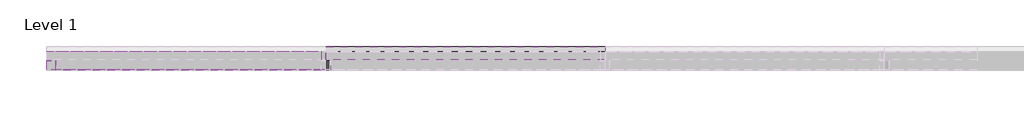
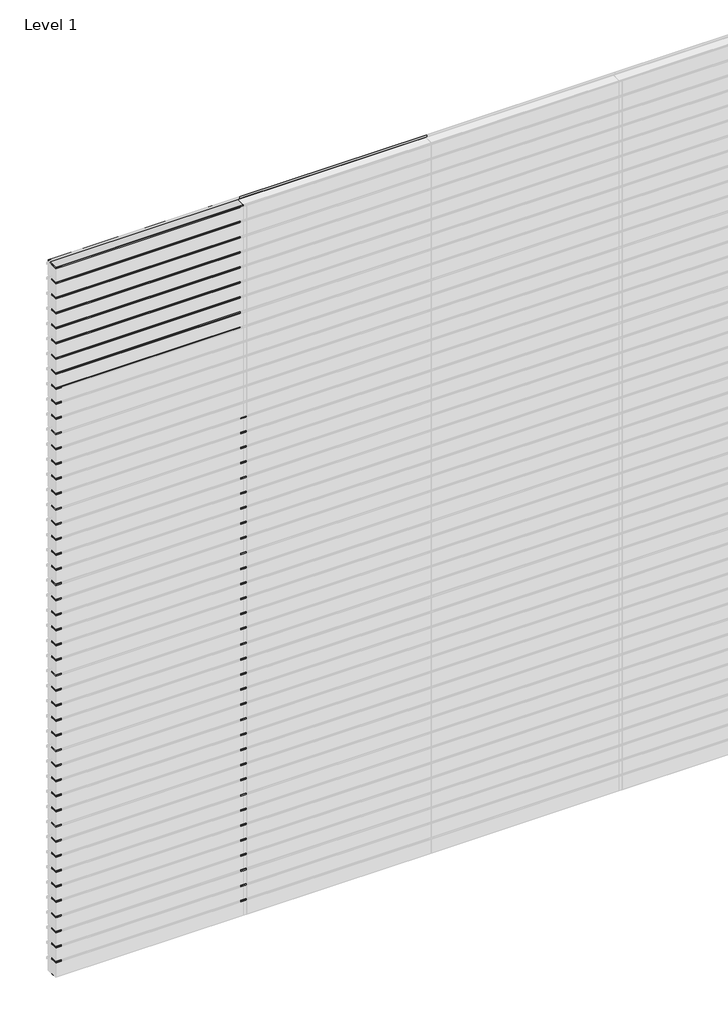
# One storey, part 2 of 6: 127 members, 9 plates.
"""IFC4 building model written with IfcOpenShell, lengths in millimetres."""

from ifc_helpers import new_model, si_unit, origin, place, context, project, spatial, transform, mapped, element, save
from components import rectangular_mullion_0894c78b, rectangular_mullion_172e3795, rectangular_mullion_b3c6ef04, empty_system_panel_empty_cd94e0d4, empty_system_panel_empty_03f415d5

model = new_model("IFC4")

# Units and contexts
model_context = context("Model", 3, world=origin())
ifc_project = project(units=[si_unit("LENGTHUNIT", "METRE", prefix="MILLI")], contexts=[model_context])

# Site, building, storey
site = spatial("IfcSite", under=ifc_project)
building = spatial("IfcBuilding", under=site)
storey = spatial("IfcBuildingStorey", under=building, Name="Level 1", Elevation=0.0)

# Members
placement = place(None, origin())
rectangular_mullion_shape = rectangular_mullion_0894c78b(model_context)
element("IfcMember", 1, ObjectType="Rectangular Mullion : RSen_21_CWM_blade - 100 C_gen_duco projects", at=placement, inside=storey, context=model_context, shape_type="MappedRepresentation", body=[
    mapped(rectangular_mullion_shape, transform((1500.0, 3000.0, 127.5), x_axis=(0.0, 0.0, 1.0), y_axis=(0.0, 1.0, 0.0), z_axis=(-1.0, 0.0, 0.0))),
])
element("IfcMember", 2, ObjectType="Rectangular Mullion : RSen_21_CWM_blade - 100 C_gen_duco projects", at=placement, inside=storey, context=model_context, shape_type="MappedRepresentation", body=[
    mapped(rectangular_mullion_shape, transform((1500.0, 3000.0, 255.0), x_axis=(0.0, 0.0, 1.0), y_axis=(0.0, 1.0, 0.0), z_axis=(-1.0, 0.0, 0.0))),
])
element("IfcMember", 3, ObjectType="Rectangular Mullion : RSen_21_CWM_blade - 100 C_gen_duco projects", at=placement, inside=storey, context=model_context, shape_type="MappedRepresentation", body=[
    mapped(rectangular_mullion_shape, transform((1500.0, 3000.0, 382.5), x_axis=(0.0, 0.0, 1.0), y_axis=(0.0, 1.0, 0.0), z_axis=(-1.0, 0.0, 0.0))),
])
element("IfcMember", 4, ObjectType="Rectangular Mullion : RSen_21_CWM_blade - 100 C_gen_duco projects", at=placement, inside=storey, context=model_context, shape_type="MappedRepresentation", body=[
    mapped(rectangular_mullion_shape, transform((1500.0, 3000.0, 510.0), x_axis=(0.0, 0.0, 1.0), y_axis=(0.0, 1.0, 0.0), z_axis=(-1.0, 0.0, 0.0))),
])
element("IfcMember", 5, ObjectType="Rectangular Mullion : RSen_21_CWM_blade - 100 C_gen_duco projects", at=placement, inside=storey, context=model_context, shape_type="MappedRepresentation", body=[
    mapped(rectangular_mullion_shape, transform((1500.0, 3000.0, 637.5), x_axis=(0.0, 0.0, 1.0), y_axis=(0.0, 1.0, 0.0), z_axis=(-1.0, 0.0, 0.0))),
])
element("IfcMember", 6, ObjectType="Rectangular Mullion : RSen_21_CWM_blade - 100 C_gen_duco projects", at=placement, inside=storey, context=model_context, shape_type="MappedRepresentation", body=[
    mapped(rectangular_mullion_shape, transform((1500.0, 3000.0, 765.0), x_axis=(0.0, 0.0, 1.0), y_axis=(0.0, 1.0, 0.0), z_axis=(-1.0, 0.0, 0.0))),
])
element("IfcMember", 7, ObjectType="Rectangular Mullion : RSen_21_CWM_blade - 100 C_gen_duco projects", at=placement, inside=storey, context=model_context, shape_type="MappedRepresentation", body=[
    mapped(rectangular_mullion_shape, transform((1500.0, 3000.0, 892.5), x_axis=(0.0, 0.0, 1.0), y_axis=(0.0, 1.0, 0.0), z_axis=(-1.0, 0.0, 0.0))),
])
element("IfcMember", 8, ObjectType="Rectangular Mullion : RSen_21_CWM_blade - 100 C_gen_duco projects", at=placement, inside=storey, context=model_context, shape_type="MappedRepresentation", body=[
    mapped(rectangular_mullion_shape, transform((1500.0, 3000.0, 1020.0), x_axis=(0.0, 0.0, 1.0), y_axis=(0.0, 1.0, 0.0), z_axis=(-1.0, 0.0, 0.0))),
])
element("IfcMember", 9, ObjectType="Rectangular Mullion : RSen_21_CWM_blade - 100 C_gen_duco projects", at=placement, inside=storey, context=model_context, shape_type="MappedRepresentation", body=[
    mapped(rectangular_mullion_shape, transform((1500.0, 3000.0, 1147.5), x_axis=(0.0, 0.0, 1.0), y_axis=(0.0, 1.0, 0.0), z_axis=(-1.0, 0.0, 0.0))),
])
element("IfcMember", 10, ObjectType="Rectangular Mullion : RSen_21_CWM_blade - 100 C_gen_duco projects", at=placement, inside=storey, context=model_context, shape_type="MappedRepresentation", body=[
    mapped(rectangular_mullion_shape, transform((1500.0, 3000.0, 1275.0), x_axis=(0.0, 0.0, 1.0), y_axis=(0.0, 1.0, 0.0), z_axis=(-1.0, 0.0, 0.0))),
])
element("IfcMember", 11, ObjectType="Rectangular Mullion : RSen_21_CWM_blade - 100 C_gen_duco projects", at=placement, inside=storey, context=model_context, shape_type="MappedRepresentation", body=[
    mapped(rectangular_mullion_shape, transform((1500.0, 3000.0, 1402.5), x_axis=(0.0, 0.0, 1.0), y_axis=(0.0, 1.0, 0.0), z_axis=(-1.0, 0.0, 0.0))),
])
element("IfcMember", 12, ObjectType="Rectangular Mullion : RSen_21_CWM_blade - 100 C_gen_duco projects", at=placement, inside=storey, context=model_context, shape_type="MappedRepresentation", body=[
    mapped(rectangular_mullion_shape, transform((1500.0, 3000.0, 1530.0), x_axis=(0.0, 0.0, 1.0), y_axis=(0.0, 1.0, 0.0), z_axis=(-1.0, 0.0, 0.0))),
])
element("IfcMember", 13, ObjectType="Rectangular Mullion : RSen_21_CWM_blade - 100 C_gen_duco projects", at=placement, inside=storey, context=model_context, shape_type="MappedRepresentation", body=[
    mapped(rectangular_mullion_shape, transform((1500.0, 3000.0, 1657.5), x_axis=(0.0, 0.0, 1.0), y_axis=(0.0, 1.0, 0.0), z_axis=(-1.0, 0.0, 0.0))),
])
element("IfcMember", 14, ObjectType="Rectangular Mullion : RSen_21_CWM_blade - 100 C_gen_duco projects", at=placement, inside=storey, context=model_context, shape_type="MappedRepresentation", body=[
    mapped(rectangular_mullion_shape, transform((1500.0, 3000.0, 1785.0), x_axis=(0.0, 0.0, 1.0), y_axis=(0.0, 1.0, 0.0), z_axis=(-1.0, 0.0, 0.0))),
])
element("IfcMember", 15, ObjectType="Rectangular Mullion : RSen_21_CWM_blade - 100 C_gen_duco projects", at=placement, inside=storey, context=model_context, shape_type="MappedRepresentation", body=[
    mapped(rectangular_mullion_shape, transform((1500.0, 3000.0, 1912.5), x_axis=(0.0, 0.0, 1.0), y_axis=(0.0, 1.0, 0.0), z_axis=(-1.0, 0.0, 0.0))),
])
element("IfcMember", 16, ObjectType="Rectangular Mullion : RSen_21_CWM_blade - 100 C_gen_duco projects", at=placement, inside=storey, context=model_context, shape_type="MappedRepresentation", body=[
    mapped(rectangular_mullion_shape, transform((1500.0, 3000.0, 2040.0), x_axis=(0.0, 0.0, 1.0), y_axis=(0.0, 1.0, 0.0), z_axis=(-1.0, 0.0, 0.0))),
])
element("IfcMember", 17, ObjectType="Rectangular Mullion : RSen_21_CWM_blade - 100 C_gen_duco projects", at=placement, inside=storey, context=model_context, shape_type="MappedRepresentation", body=[
    mapped(rectangular_mullion_shape, transform((1500.0, 3000.0, 2167.5), x_axis=(0.0, 0.0, 1.0), y_axis=(0.0, 1.0, 0.0), z_axis=(-1.0, 0.0, 0.0))),
])
element("IfcMember", 18, ObjectType="Rectangular Mullion : RSen_21_CWM_blade - 100 C_gen_duco projects", at=placement, inside=storey, context=model_context, shape_type="MappedRepresentation", body=[
    mapped(rectangular_mullion_shape, transform((1500.0, 3000.0, 2295.0), x_axis=(0.0, 0.0, 1.0), y_axis=(0.0, 1.0, 0.0), z_axis=(-1.0, 0.0, 0.0))),
])
element("IfcMember", 19, ObjectType="Rectangular Mullion : RSen_21_CWM_blade - 100 C_gen_duco projects", at=placement, inside=storey, context=model_context, shape_type="MappedRepresentation", body=[
    mapped(rectangular_mullion_shape, transform((1500.0, 3000.0, 2422.5), x_axis=(0.0, 0.0, 1.0), y_axis=(0.0, 1.0, 0.0), z_axis=(-1.0, 0.0, 0.0))),
])
element("IfcMember", 20, ObjectType="Rectangular Mullion : RSen_21_CWM_blade - 100 C_gen_duco projects", at=placement, inside=storey, context=model_context, shape_type="MappedRepresentation", body=[
    mapped(rectangular_mullion_shape, transform((1500.0, 3000.0, 2550.0), x_axis=(0.0, 0.0, 1.0), y_axis=(0.0, 1.0, 0.0), z_axis=(-1.0, 0.0, 0.0))),
])
element("IfcMember", 21, ObjectType="Rectangular Mullion : RSen_21_CWM_blade - 100 C_gen_duco projects", at=placement, inside=storey, context=model_context, shape_type="MappedRepresentation", body=[
    mapped(rectangular_mullion_shape, transform((1500.0, 3000.0, 2677.5), x_axis=(0.0, 0.0, 1.0), y_axis=(0.0, 1.0, 0.0), z_axis=(-1.0, 0.0, 0.0))),
])
element("IfcMember", 22, ObjectType="Rectangular Mullion : RSen_21_CWM_blade - 100 C_gen_duco projects", at=placement, inside=storey, context=model_context, shape_type="MappedRepresentation", body=[
    mapped(rectangular_mullion_shape, transform((1500.0, 3000.0, 2805.0), x_axis=(0.0, 0.0, 1.0), y_axis=(0.0, 1.0, 0.0), z_axis=(-1.0, 0.0, 0.0))),
])
element("IfcMember", 23, ObjectType="Rectangular Mullion : RSen_21_CWM_blade - 100 C_gen_duco projects", at=placement, inside=storey, context=model_context, shape_type="MappedRepresentation", body=[
    mapped(rectangular_mullion_shape, transform((1500.0, 3000.0, 2932.5), x_axis=(0.0, 0.0, 1.0), y_axis=(0.0, 1.0, 0.0), z_axis=(-1.0, 0.0, 0.0))),
])
element("IfcMember", 24, ObjectType="Rectangular Mullion : RSen_21_CWM_blade - 100 C_gen_duco projects", at=placement, inside=storey, context=model_context, shape_type="MappedRepresentation", body=[
    mapped(rectangular_mullion_shape, transform((1500.0, 3000.0, 3060.0), x_axis=(0.0, 0.0, 1.0), y_axis=(0.0, 1.0, 0.0), z_axis=(-1.0, 0.0, 0.0))),
])
element("IfcMember", 25, ObjectType="Rectangular Mullion : RSen_21_CWM_blade - 100 C_gen_duco projects", at=placement, inside=storey, context=model_context, shape_type="MappedRepresentation", body=[
    mapped(rectangular_mullion_shape, transform((1500.0, 3000.0, 3187.5), x_axis=(0.0, 0.0, 1.0), y_axis=(0.0, 1.0, 0.0), z_axis=(-1.0, 0.0, 0.0))),
])
element("IfcMember", 26, ObjectType="Rectangular Mullion : RSen_21_CWM_blade - 100 C_gen_duco projects", at=placement, inside=storey, context=model_context, shape_type="MappedRepresentation", body=[
    mapped(rectangular_mullion_shape, transform((1500.0, 3000.0, 3315.0), x_axis=(0.0, 0.0, 1.0), y_axis=(0.0, 1.0, 0.0), z_axis=(-1.0, 0.0, 0.0))),
])
element("IfcMember", 27, ObjectType="Rectangular Mullion : RSen_21_CWM_blade - 100 C_gen_duco projects", at=placement, inside=storey, context=model_context, shape_type="MappedRepresentation", body=[
    mapped(rectangular_mullion_shape, transform((1500.0, 3000.0, 3442.5), x_axis=(0.0, 0.0, 1.0), y_axis=(0.0, 1.0, 0.0), z_axis=(-1.0, 0.0, 0.0))),
])
element("IfcMember", 28, ObjectType="Rectangular Mullion : RSen_21_CWM_blade - 100 C_gen_duco projects", at=placement, inside=storey, context=model_context, shape_type="MappedRepresentation", body=[
    mapped(rectangular_mullion_shape, transform((1500.0, 3000.0, 3570.0), x_axis=(0.0, 0.0, 1.0), y_axis=(0.0, 1.0, 0.0), z_axis=(-1.0, 0.0, 0.0))),
])
element("IfcMember", 29, ObjectType="Rectangular Mullion : RSen_21_CWM_blade - 100 C_gen_duco projects", at=placement, inside=storey, context=model_context, shape_type="MappedRepresentation", body=[
    mapped(rectangular_mullion_shape, transform((1500.0, 3000.0, 3697.5), x_axis=(0.0, 0.0, 1.0), y_axis=(0.0, 1.0, 0.0), z_axis=(-1.0, 0.0, 0.0))),
])
element("IfcMember", 30, ObjectType="Rectangular Mullion : RSen_21_CWM_blade - 100 C_gen_duco projects", at=placement, inside=storey, context=model_context, shape_type="MappedRepresentation", body=[
    mapped(rectangular_mullion_shape, transform((1500.0, 3000.0, 3825.0), x_axis=(0.0, 0.0, 1.0), y_axis=(0.0, 1.0, 0.0), z_axis=(-1.0, 0.0, 0.0))),
])
element("IfcMember", 31, ObjectType="Rectangular Mullion : RSen_21_CWM_blade - 100 C_gen_duco projects", at=placement, inside=storey, context=model_context, shape_type="MappedRepresentation", body=[
    mapped(rectangular_mullion_shape, transform((1500.0, 3000.0, 3952.5), x_axis=(0.0, 0.0, 1.0), y_axis=(0.0, 1.0, 0.0), z_axis=(-1.0, 0.0, 0.0))),
])
element("IfcMember", 32, ObjectType="Rectangular Mullion : RSen_21_CWM_blade - 100 C_gen_duco projects", at=placement, inside=storey, context=model_context, shape_type="MappedRepresentation", body=[
    mapped(rectangular_mullion_shape, transform((1500.0, 3000.0, 4080.0), x_axis=(0.0, 0.0, 1.0), y_axis=(0.0, 1.0, 0.0), z_axis=(-1.0, 0.0, 0.0))),
])
element("IfcMember", 33, ObjectType="Rectangular Mullion : RSen_21_CWM_blade - 100 C_gen_duco projects", at=placement, inside=storey, context=model_context, shape_type="MappedRepresentation", body=[
    mapped(rectangular_mullion_shape, transform((1500.0, 3000.0, 4207.5), x_axis=(0.0, 0.0, 1.0), y_axis=(0.0, 1.0, 0.0), z_axis=(-1.0, 0.0, 0.0))),
])
element("IfcMember", 34, ObjectType="Rectangular Mullion : RSen_21_CWM_blade - 100 C_gen_duco projects", at=placement, inside=storey, context=model_context, shape_type="MappedRepresentation", body=[
    mapped(rectangular_mullion_shape, transform((1500.0, 3000.0, 4335.0), x_axis=(0.0, 0.0, 1.0), y_axis=(0.0, 1.0, 0.0), z_axis=(-1.0, 0.0, 0.0))),
])
element("IfcMember", 35, ObjectType="Rectangular Mullion : RSen_21_CWM_blade - 100 C_gen_duco projects", at=placement, inside=storey, context=model_context, shape_type="MappedRepresentation", body=[
    mapped(rectangular_mullion_shape, transform((1500.0, 3000.0, 4462.5), x_axis=(0.0, 0.0, 1.0), y_axis=(0.0, 1.0, 0.0), z_axis=(-1.0, 0.0, 0.0))),
])
element("IfcMember", 36, ObjectType="Rectangular Mullion : RSen_21_CWM_blade - 100 C_gen_duco projects", at=placement, inside=storey, context=model_context, shape_type="MappedRepresentation", body=[
    mapped(rectangular_mullion_shape, transform((1500.0, 3000.0, 4590.0), x_axis=(0.0, 0.0, 1.0), y_axis=(0.0, 1.0, 0.0), z_axis=(-1.0, 0.0, 0.0))),
])
element("IfcMember", 37, ObjectType="Rectangular Mullion : RSen_21_CWM_blade - 100 C_gen_duco projects", at=placement, inside=storey, context=model_context, shape_type="MappedRepresentation", body=[
    mapped(rectangular_mullion_shape, transform((1500.0, 3000.0, 4717.5), x_axis=(0.0, 0.0, 1.0), y_axis=(0.0, 1.0, 0.0), z_axis=(-1.0, 0.0, 0.0))),
])
element("IfcMember", 38, ObjectType="Rectangular Mullion : RSen_21_CWM_blade - 100 C_gen_duco projects", at=placement, inside=storey, context=model_context, shape_type="MappedRepresentation", body=[
    mapped(rectangular_mullion_shape, transform((1500.0, 3000.0, 4845.0), x_axis=(0.0, 0.0, 1.0), y_axis=(0.0, 1.0, 0.0), z_axis=(-1.0, 0.0, 0.0))),
])
element("IfcMember", 39, ObjectType="Rectangular Mullion : RSen_21_CWM_blade - 100 C_gen_duco projects", at=placement, inside=storey, context=model_context, shape_type="MappedRepresentation", body=[
    mapped(rectangular_mullion_shape, transform((1500.0, 3000.0, 4972.5), x_axis=(0.0, 0.0, 1.0), y_axis=(0.0, 1.0, 0.0), z_axis=(-1.0, 0.0, 0.0))),
])
element("IfcMember", 40, ObjectType="Rectangular Mullion : RSen_21_CWM_blade - 100 C_gen_duco projects", at=placement, inside=storey, context=model_context, shape_type="MappedRepresentation", body=[
    mapped(rectangular_mullion_shape, transform((1500.0, 3000.0, 5100.0), x_axis=(0.0, 0.0, 1.0), y_axis=(0.0, 1.0, 0.0), z_axis=(-1.0, 0.0, 0.0))),
])
element("IfcMember", 41, ObjectType="Rectangular Mullion : RSen_21_CWM_blade - 100 C_gen_duco projects", at=placement, inside=storey, context=model_context, shape_type="MappedRepresentation", body=[
    mapped(rectangular_mullion_shape, transform((1500.0, 3000.0, 5227.5), x_axis=(0.0, 0.0, 1.0), y_axis=(0.0, 1.0, 0.0), z_axis=(-1.0, 0.0, 0.0))),
])
element("IfcMember", 42, ObjectType="Rectangular Mullion : RSen_21_CWM_blade - 100 C_gen_duco projects", at=placement, inside=storey, context=model_context, shape_type="MappedRepresentation", body=[
    mapped(rectangular_mullion_shape, transform((1500.0, 3000.0, 5355.0), x_axis=(0.0, 0.0, 1.0), y_axis=(0.0, 1.0, 0.0), z_axis=(-1.0, 0.0, 0.0))),
])
element("IfcMember", 43, ObjectType="Rectangular Mullion : RSen_21_CWM_blade - 100 C_gen_duco projects", at=placement, inside=storey, context=model_context, shape_type="MappedRepresentation", body=[
    mapped(rectangular_mullion_shape, transform((1500.0, 3000.0, 5482.5), x_axis=(0.0, 0.0, 1.0), y_axis=(0.0, 1.0, 0.0), z_axis=(-1.0, 0.0, 0.0))),
])
element("IfcMember", 44, ObjectType="Rectangular Mullion : RSen_21_CWM_blade - 100 C_gen_duco projects", at=placement, inside=storey, context=model_context, shape_type="MappedRepresentation", body=[
    mapped(rectangular_mullion_shape, transform((1500.0, 3000.0, 5610.0), x_axis=(0.0, 0.0, 1.0), y_axis=(0.0, 1.0, 0.0), z_axis=(-1.0, 0.0, 0.0))),
])
element("IfcMember", 45, ObjectType="Rectangular Mullion : RSen_21_CWM_blade - 100 C_gen_duco projects", at=placement, inside=storey, context=model_context, shape_type="MappedRepresentation", body=[
    mapped(rectangular_mullion_shape, transform((1500.0, 3000.0, 5737.5), x_axis=(0.0, 0.0, 1.0), y_axis=(0.0, 1.0, 0.0), z_axis=(-1.0, 0.0, 0.0))),
])
element("IfcMember", 46, ObjectType="Rectangular Mullion : RSen_21_CWM_blade - 100 C_gen_duco projects", at=placement, inside=storey, context=model_context, shape_type="MappedRepresentation", body=[
    mapped(rectangular_mullion_shape, transform((1500.0, 3000.0, 5865.0), x_axis=(0.0, 0.0, 1.0), y_axis=(0.0, 1.0, 0.0), z_axis=(-1.0, 0.0, 0.0))),
])
element("IfcMember", 47, ObjectType="Rectangular Mullion : RSen_21_CWM_blade - 100 C_gen_duco projects", at=placement, inside=storey, context=model_context, shape_type="MappedRepresentation", body=[
    mapped(rectangular_mullion_shape, transform((1500.0, 3000.0, 5992.5), x_axis=(0.0, 0.0, 1.0), y_axis=(0.0, 1.0, 0.0), z_axis=(-1.0, 0.0, 0.0))),
])
rectangular_mullion_2_shape = rectangular_mullion_172e3795(model_context)
element("IfcMember", 48, ObjectType="Rectangular Mullion : RSen_21_CWM_support profile 50x50_gen_duco projects", at=placement, inside=storey, context=model_context, shape_type="MappedRepresentation", body=[
    mapped(rectangular_mullion_2_shape, transform((1500.0, 3000.0, 0.0), x_axis=(-1.0, 0.0, 0.0), y_axis=(0.0, 1.0, 0.0), z_axis=(0.0, 0.0, -1.0))),
])
element("IfcMember", 49, ObjectType="Rectangular Mullion : RSen_21_CWM_support profile 50x50_gen_duco projects", at=placement, inside=storey, context=model_context, shape_type="MappedRepresentation", body=[
    mapped(rectangular_mullion_2_shape, transform((1500.0, 3000.0, 127.5), x_axis=(-1.0, 0.0, 0.0), y_axis=(0.0, 1.0, 0.0), z_axis=(0.0, 0.0, -1.0))),
])
element("IfcMember", 50, ObjectType="Rectangular Mullion : RSen_21_CWM_support profile 50x50_gen_duco projects", at=placement, inside=storey, context=model_context, shape_type="MappedRepresentation", body=[
    mapped(rectangular_mullion_2_shape, transform((1500.0, 3000.0, 255.0), x_axis=(-1.0, 0.0, 0.0), y_axis=(0.0, 1.0, 0.0), z_axis=(0.0, 0.0, -1.0))),
])
element("IfcMember", 51, ObjectType="Rectangular Mullion : RSen_21_CWM_support profile 50x50_gen_duco projects", at=placement, inside=storey, context=model_context, shape_type="MappedRepresentation", body=[
    mapped(rectangular_mullion_2_shape, transform((1500.0, 3000.0, 382.5), x_axis=(-1.0, 0.0, 0.0), y_axis=(0.0, 1.0, 0.0), z_axis=(0.0, 0.0, -1.0))),
])
element("IfcMember", 52, ObjectType="Rectangular Mullion : RSen_21_CWM_support profile 50x50_gen_duco projects", at=placement, inside=storey, context=model_context, shape_type="MappedRepresentation", body=[
    mapped(rectangular_mullion_2_shape, transform((1500.0, 3000.0, 510.0), x_axis=(-1.0, 0.0, 0.0), y_axis=(0.0, 1.0, 0.0), z_axis=(0.0, 0.0, -1.0))),
])
element("IfcMember", 53, ObjectType="Rectangular Mullion : RSen_21_CWM_support profile 50x50_gen_duco projects", at=placement, inside=storey, context=model_context, shape_type="MappedRepresentation", body=[
    mapped(rectangular_mullion_2_shape, transform((1500.0, 3000.0, 637.5), x_axis=(-1.0, 0.0, 0.0), y_axis=(0.0, 1.0, 0.0), z_axis=(0.0, 0.0, -1.0))),
])
element("IfcMember", 54, ObjectType="Rectangular Mullion : RSen_21_CWM_support profile 50x50_gen_duco projects", at=placement, inside=storey, context=model_context, shape_type="MappedRepresentation", body=[
    mapped(rectangular_mullion_2_shape, transform((1500.0, 3000.0, 765.0), x_axis=(-1.0, 0.0, 0.0), y_axis=(0.0, 1.0, 0.0), z_axis=(0.0, 0.0, -1.0))),
])
element("IfcMember", 55, ObjectType="Rectangular Mullion : RSen_21_CWM_support profile 50x50_gen_duco projects", at=placement, inside=storey, context=model_context, shape_type="MappedRepresentation", body=[
    mapped(rectangular_mullion_2_shape, transform((1500.0, 3000.0, 892.5), x_axis=(-1.0, 0.0, 0.0), y_axis=(0.0, 1.0, 0.0), z_axis=(0.0, 0.0, -1.0))),
])
element("IfcMember", 56, ObjectType="Rectangular Mullion : RSen_21_CWM_support profile 50x50_gen_duco projects", at=placement, inside=storey, context=model_context, shape_type="MappedRepresentation", body=[
    mapped(rectangular_mullion_2_shape, transform((1500.0, 3000.0, 1020.0), x_axis=(-1.0, 0.0, 0.0), y_axis=(0.0, 1.0, 0.0), z_axis=(0.0, 0.0, -1.0))),
])
element("IfcMember", 57, ObjectType="Rectangular Mullion : RSen_21_CWM_support profile 50x50_gen_duco projects", at=placement, inside=storey, context=model_context, shape_type="MappedRepresentation", body=[
    mapped(rectangular_mullion_2_shape, transform((1500.0, 3000.0, 1147.5), x_axis=(-1.0, 0.0, 0.0), y_axis=(0.0, 1.0, 0.0), z_axis=(0.0, 0.0, -1.0))),
])
element("IfcMember", 58, ObjectType="Rectangular Mullion : RSen_21_CWM_support profile 50x50_gen_duco projects", at=placement, inside=storey, context=model_context, shape_type="MappedRepresentation", body=[
    mapped(rectangular_mullion_2_shape, transform((1500.0, 3000.0, 1275.0), x_axis=(-1.0, 0.0, 0.0), y_axis=(0.0, 1.0, 0.0), z_axis=(0.0, 0.0, -1.0))),
])
element("IfcMember", 59, ObjectType="Rectangular Mullion : RSen_21_CWM_support profile 50x50_gen_duco projects", at=placement, inside=storey, context=model_context, shape_type="MappedRepresentation", body=[
    mapped(rectangular_mullion_2_shape, transform((1500.0, 3000.0, 1402.5), x_axis=(-1.0, 0.0, 0.0), y_axis=(0.0, 1.0, 0.0), z_axis=(0.0, 0.0, -1.0))),
])
element("IfcMember", 60, ObjectType="Rectangular Mullion : RSen_21_CWM_support profile 50x50_gen_duco projects", at=placement, inside=storey, context=model_context, shape_type="MappedRepresentation", body=[
    mapped(rectangular_mullion_2_shape, transform((1500.0, 3000.0, 1530.0), x_axis=(-1.0, 0.0, 0.0), y_axis=(0.0, 1.0, 0.0), z_axis=(0.0, 0.0, -1.0))),
])
element("IfcMember", 61, ObjectType="Rectangular Mullion : RSen_21_CWM_support profile 50x50_gen_duco projects", at=placement, inside=storey, context=model_context, shape_type="MappedRepresentation", body=[
    mapped(rectangular_mullion_2_shape, transform((1500.0, 3000.0, 1657.5), x_axis=(-1.0, 0.0, 0.0), y_axis=(0.0, 1.0, 0.0), z_axis=(0.0, 0.0, -1.0))),
])
element("IfcMember", 62, ObjectType="Rectangular Mullion : RSen_21_CWM_support profile 50x50_gen_duco projects", at=placement, inside=storey, context=model_context, shape_type="MappedRepresentation", body=[
    mapped(rectangular_mullion_2_shape, transform((1500.0, 3000.0, 1785.0), x_axis=(-1.0, 0.0, 0.0), y_axis=(0.0, 1.0, 0.0), z_axis=(0.0, 0.0, -1.0))),
])
element("IfcMember", 63, ObjectType="Rectangular Mullion : RSen_21_CWM_support profile 50x50_gen_duco projects", at=placement, inside=storey, context=model_context, shape_type="MappedRepresentation", body=[
    mapped(rectangular_mullion_2_shape, transform((1500.0, 3000.0, 1912.5), x_axis=(-1.0, 0.0, 0.0), y_axis=(0.0, 1.0, 0.0), z_axis=(0.0, 0.0, -1.0))),
])
element("IfcMember", 64, ObjectType="Rectangular Mullion : RSen_21_CWM_support profile 50x50_gen_duco projects", at=placement, inside=storey, context=model_context, shape_type="MappedRepresentation", body=[
    mapped(rectangular_mullion_2_shape, transform((1500.0, 3000.0, 2040.0), x_axis=(-1.0, 0.0, 0.0), y_axis=(0.0, 1.0, 0.0), z_axis=(0.0, 0.0, -1.0))),
])
element("IfcMember", 65, ObjectType="Rectangular Mullion : RSen_21_CWM_support profile 50x50_gen_duco projects", at=placement, inside=storey, context=model_context, shape_type="MappedRepresentation", body=[
    mapped(rectangular_mullion_2_shape, transform((1500.0, 3000.0, 2167.5), x_axis=(-1.0, 0.0, 0.0), y_axis=(0.0, 1.0, 0.0), z_axis=(0.0, 0.0, -1.0))),
])
element("IfcMember", 66, ObjectType="Rectangular Mullion : RSen_21_CWM_support profile 50x50_gen_duco projects", at=placement, inside=storey, context=model_context, shape_type="MappedRepresentation", body=[
    mapped(rectangular_mullion_2_shape, transform((1500.0, 3000.0, 2295.0), x_axis=(-1.0, 0.0, 0.0), y_axis=(0.0, 1.0, 0.0), z_axis=(0.0, 0.0, -1.0))),
])
element("IfcMember", 67, ObjectType="Rectangular Mullion : RSen_21_CWM_support profile 50x50_gen_duco projects", at=placement, inside=storey, context=model_context, shape_type="MappedRepresentation", body=[
    mapped(rectangular_mullion_2_shape, transform((1500.0, 3000.0, 2422.5), x_axis=(-1.0, 0.0, 0.0), y_axis=(0.0, 1.0, 0.0), z_axis=(0.0, 0.0, -1.0))),
])
element("IfcMember", 68, ObjectType="Rectangular Mullion : RSen_21_CWM_support profile 50x50_gen_duco projects", at=placement, inside=storey, context=model_context, shape_type="MappedRepresentation", body=[
    mapped(rectangular_mullion_2_shape, transform((1500.0, 3000.0, 2550.0), x_axis=(-1.0, 0.0, 0.0), y_axis=(0.0, 1.0, 0.0), z_axis=(0.0, 0.0, -1.0))),
])
element("IfcMember", 69, ObjectType="Rectangular Mullion : RSen_21_CWM_support profile 50x50_gen_duco projects", at=placement, inside=storey, context=model_context, shape_type="MappedRepresentation", body=[
    mapped(rectangular_mullion_2_shape, transform((1500.0, 3000.0, 2677.5), x_axis=(-1.0, 0.0, 0.0), y_axis=(0.0, 1.0, 0.0), z_axis=(0.0, 0.0, -1.0))),
])
element("IfcMember", 70, ObjectType="Rectangular Mullion : RSen_21_CWM_support profile 50x50_gen_duco projects", at=placement, inside=storey, context=model_context, shape_type="MappedRepresentation", body=[
    mapped(rectangular_mullion_2_shape, transform((1500.0, 3000.0, 2805.0), x_axis=(-1.0, 0.0, 0.0), y_axis=(0.0, 1.0, 0.0), z_axis=(0.0, 0.0, -1.0))),
])
element("IfcMember", 71, ObjectType="Rectangular Mullion : RSen_21_CWM_support profile 50x50_gen_duco projects", at=placement, inside=storey, context=model_context, shape_type="MappedRepresentation", body=[
    mapped(rectangular_mullion_2_shape, transform((1500.0, 3000.0, 2932.5), x_axis=(-1.0, 0.0, 0.0), y_axis=(0.0, 1.0, 0.0), z_axis=(0.0, 0.0, -1.0))),
])
element("IfcMember", 72, ObjectType="Rectangular Mullion : RSen_21_CWM_support profile 50x50_gen_duco projects", at=placement, inside=storey, context=model_context, shape_type="MappedRepresentation", body=[
    mapped(rectangular_mullion_2_shape, transform((1500.0, 3000.0, 3060.0), x_axis=(-1.0, 0.0, 0.0), y_axis=(0.0, 1.0, 0.0), z_axis=(0.0, 0.0, -1.0))),
])
element("IfcMember", 73, ObjectType="Rectangular Mullion : RSen_21_CWM_support profile 50x50_gen_duco projects", at=placement, inside=storey, context=model_context, shape_type="MappedRepresentation", body=[
    mapped(rectangular_mullion_2_shape, transform((1500.0, 3000.0, 3187.5), x_axis=(-1.0, 0.0, 0.0), y_axis=(0.0, 1.0, 0.0), z_axis=(0.0, 0.0, -1.0))),
])
element("IfcMember", 74, ObjectType="Rectangular Mullion : RSen_21_CWM_support profile 50x50_gen_duco projects", at=placement, inside=storey, context=model_context, shape_type="MappedRepresentation", body=[
    mapped(rectangular_mullion_2_shape, transform((1500.0, 3000.0, 3315.0), x_axis=(-1.0, 0.0, 0.0), y_axis=(0.0, 1.0, 0.0), z_axis=(0.0, 0.0, -1.0))),
])
element("IfcMember", 75, ObjectType="Rectangular Mullion : RSen_21_CWM_support profile 50x50_gen_duco projects", at=placement, inside=storey, context=model_context, shape_type="MappedRepresentation", body=[
    mapped(rectangular_mullion_2_shape, transform((1500.0, 3000.0, 3442.5), x_axis=(-1.0, 0.0, 0.0), y_axis=(0.0, 1.0, 0.0), z_axis=(0.0, 0.0, -1.0))),
])
element("IfcMember", 76, ObjectType="Rectangular Mullion : RSen_21_CWM_support profile 50x50_gen_duco projects", at=placement, inside=storey, context=model_context, shape_type="MappedRepresentation", body=[
    mapped(rectangular_mullion_2_shape, transform((1500.0, 3000.0, 3570.0), x_axis=(-1.0, 0.0, 0.0), y_axis=(0.0, 1.0, 0.0), z_axis=(0.0, 0.0, -1.0))),
])
element("IfcMember", 77, ObjectType="Rectangular Mullion : RSen_21_CWM_support profile 50x50_gen_duco projects", at=placement, inside=storey, context=model_context, shape_type="MappedRepresentation", body=[
    mapped(rectangular_mullion_2_shape, transform((1500.0, 3000.0, 3697.5), x_axis=(-1.0, 0.0, 0.0), y_axis=(0.0, 1.0, 0.0), z_axis=(0.0, 0.0, -1.0))),
])
element("IfcMember", 78, ObjectType="Rectangular Mullion : RSen_21_CWM_support profile 50x50_gen_duco projects", at=placement, inside=storey, context=model_context, shape_type="MappedRepresentation", body=[
    mapped(rectangular_mullion_2_shape, transform((1500.0, 3000.0, 3825.0), x_axis=(-1.0, 0.0, 0.0), y_axis=(0.0, 1.0, 0.0), z_axis=(0.0, 0.0, -1.0))),
])
element("IfcMember", 79, ObjectType="Rectangular Mullion : RSen_21_CWM_support profile 50x50_gen_duco projects", at=placement, inside=storey, context=model_context, shape_type="MappedRepresentation", body=[
    mapped(rectangular_mullion_2_shape, transform((1500.0, 3000.0, 3952.5), x_axis=(-1.0, 0.0, 0.0), y_axis=(0.0, 1.0, 0.0), z_axis=(0.0, 0.0, -1.0))),
])
element("IfcMember", 80, ObjectType="Rectangular Mullion : RSen_21_CWM_support profile 50x50_gen_duco projects", at=placement, inside=storey, context=model_context, shape_type="MappedRepresentation", body=[
    mapped(rectangular_mullion_2_shape, transform((1500.0, 3000.0, 4080.0), x_axis=(-1.0, 0.0, 0.0), y_axis=(0.0, 1.0, 0.0), z_axis=(0.0, 0.0, -1.0))),
])
rectangular_mullion_3_shape = rectangular_mullion_b3c6ef04(model_context)
element("IfcMember", 81, ObjectType="Rectangular Mullion : RSen_21_CWM_support profile 50x50 - left_gen_duco projects", at=placement, inside=storey, context=model_context, shape_type="MappedRepresentation", body=[
    mapped(rectangular_mullion_3_shape, transform((0.0, 3000.0, 0.0), x_axis=(-1.0, 0.0, 0.0), y_axis=(0.0, 1.0, 0.0), z_axis=(0.0, 0.0, -1.0))),
])
element("IfcMember", 82, ObjectType="Rectangular Mullion : RSen_21_CWM_support profile 50x50 - left_gen_duco projects", at=placement, inside=storey, context=model_context, shape_type="MappedRepresentation", body=[
    mapped(rectangular_mullion_3_shape, transform((0.0, 3000.0, 127.5), x_axis=(-1.0, 0.0, 0.0), y_axis=(0.0, 1.0, 0.0), z_axis=(0.0, 0.0, -1.0))),
])
element("IfcMember", 83, ObjectType="Rectangular Mullion : RSen_21_CWM_support profile 50x50 - left_gen_duco projects", at=placement, inside=storey, context=model_context, shape_type="MappedRepresentation", body=[
    mapped(rectangular_mullion_3_shape, transform((0.0, 3000.0, 255.0), x_axis=(-1.0, 0.0, 0.0), y_axis=(0.0, 1.0, 0.0), z_axis=(0.0, 0.0, -1.0))),
])
element("IfcMember", 84, ObjectType="Rectangular Mullion : RSen_21_CWM_support profile 50x50 - left_gen_duco projects", at=placement, inside=storey, context=model_context, shape_type="MappedRepresentation", body=[
    mapped(rectangular_mullion_3_shape, transform((0.0, 3000.0, 382.5), x_axis=(-1.0, 0.0, 0.0), y_axis=(0.0, 1.0, 0.0), z_axis=(0.0, 0.0, -1.0))),
])
element("IfcMember", 85, ObjectType="Rectangular Mullion : RSen_21_CWM_support profile 50x50 - left_gen_duco projects", at=placement, inside=storey, context=model_context, shape_type="MappedRepresentation", body=[
    mapped(rectangular_mullion_3_shape, transform((0.0, 3000.0, 510.0), x_axis=(-1.0, 0.0, 0.0), y_axis=(0.0, 1.0, 0.0), z_axis=(0.0, 0.0, -1.0))),
])
element("IfcMember", 86, ObjectType="Rectangular Mullion : RSen_21_CWM_support profile 50x50 - left_gen_duco projects", at=placement, inside=storey, context=model_context, shape_type="MappedRepresentation", body=[
    mapped(rectangular_mullion_3_shape, transform((0.0, 3000.0, 637.5), x_axis=(-1.0, 0.0, 0.0), y_axis=(0.0, 1.0, 0.0), z_axis=(0.0, 0.0, -1.0))),
])
element("IfcMember", 87, ObjectType="Rectangular Mullion : RSen_21_CWM_support profile 50x50 - left_gen_duco projects", at=placement, inside=storey, context=model_context, shape_type="MappedRepresentation", body=[
    mapped(rectangular_mullion_3_shape, transform((0.0, 3000.0, 765.0), x_axis=(-1.0, 0.0, 0.0), y_axis=(0.0, 1.0, 0.0), z_axis=(0.0, 0.0, -1.0))),
])
element("IfcMember", 88, ObjectType="Rectangular Mullion : RSen_21_CWM_support profile 50x50 - left_gen_duco projects", at=placement, inside=storey, context=model_context, shape_type="MappedRepresentation", body=[
    mapped(rectangular_mullion_3_shape, transform((0.0, 3000.0, 892.5), x_axis=(-1.0, 0.0, 0.0), y_axis=(0.0, 1.0, 0.0), z_axis=(0.0, 0.0, -1.0))),
])
element("IfcMember", 89, ObjectType="Rectangular Mullion : RSen_21_CWM_support profile 50x50 - left_gen_duco projects", at=placement, inside=storey, context=model_context, shape_type="MappedRepresentation", body=[
    mapped(rectangular_mullion_3_shape, transform((0.0, 3000.0, 1020.0), x_axis=(-1.0, 0.0, 0.0), y_axis=(0.0, 1.0, 0.0), z_axis=(0.0, 0.0, -1.0))),
])
element("IfcMember", 90, ObjectType="Rectangular Mullion : RSen_21_CWM_support profile 50x50 - left_gen_duco projects", at=placement, inside=storey, context=model_context, shape_type="MappedRepresentation", body=[
    mapped(rectangular_mullion_3_shape, transform((0.0, 3000.0, 1147.5), x_axis=(-1.0, 0.0, 0.0), y_axis=(0.0, 1.0, 0.0), z_axis=(0.0, 0.0, -1.0))),
])
element("IfcMember", 91, ObjectType="Rectangular Mullion : RSen_21_CWM_support profile 50x50 - left_gen_duco projects", at=placement, inside=storey, context=model_context, shape_type="MappedRepresentation", body=[
    mapped(rectangular_mullion_3_shape, transform((0.0, 3000.0, 1275.0), x_axis=(-1.0, 0.0, 0.0), y_axis=(0.0, 1.0, 0.0), z_axis=(0.0, 0.0, -1.0))),
])
element("IfcMember", 92, ObjectType="Rectangular Mullion : RSen_21_CWM_support profile 50x50 - left_gen_duco projects", at=placement, inside=storey, context=model_context, shape_type="MappedRepresentation", body=[
    mapped(rectangular_mullion_3_shape, transform((0.0, 3000.0, 1402.5), x_axis=(-1.0, 0.0, 0.0), y_axis=(0.0, 1.0, 0.0), z_axis=(0.0, 0.0, -1.0))),
])
element("IfcMember", 93, ObjectType="Rectangular Mullion : RSen_21_CWM_support profile 50x50 - left_gen_duco projects", at=placement, inside=storey, context=model_context, shape_type="MappedRepresentation", body=[
    mapped(rectangular_mullion_3_shape, transform((0.0, 3000.0, 1530.0), x_axis=(-1.0, 0.0, 0.0), y_axis=(0.0, 1.0, 0.0), z_axis=(0.0, 0.0, -1.0))),
])
element("IfcMember", 94, ObjectType="Rectangular Mullion : RSen_21_CWM_support profile 50x50 - left_gen_duco projects", at=placement, inside=storey, context=model_context, shape_type="MappedRepresentation", body=[
    mapped(rectangular_mullion_3_shape, transform((0.0, 3000.0, 1657.5), x_axis=(-1.0, 0.0, 0.0), y_axis=(0.0, 1.0, 0.0), z_axis=(0.0, 0.0, -1.0))),
])
element("IfcMember", 95, ObjectType="Rectangular Mullion : RSen_21_CWM_support profile 50x50 - left_gen_duco projects", at=placement, inside=storey, context=model_context, shape_type="MappedRepresentation", body=[
    mapped(rectangular_mullion_3_shape, transform((0.0, 3000.0, 1785.0), x_axis=(-1.0, 0.0, 0.0), y_axis=(0.0, 1.0, 0.0), z_axis=(0.0, 0.0, -1.0))),
])
element("IfcMember", 96, ObjectType="Rectangular Mullion : RSen_21_CWM_support profile 50x50 - left_gen_duco projects", at=placement, inside=storey, context=model_context, shape_type="MappedRepresentation", body=[
    mapped(rectangular_mullion_3_shape, transform((0.0, 3000.0, 1912.5), x_axis=(-1.0, 0.0, 0.0), y_axis=(0.0, 1.0, 0.0), z_axis=(0.0, 0.0, -1.0))),
])
element("IfcMember", 97, ObjectType="Rectangular Mullion : RSen_21_CWM_support profile 50x50 - left_gen_duco projects", at=placement, inside=storey, context=model_context, shape_type="MappedRepresentation", body=[
    mapped(rectangular_mullion_3_shape, transform((0.0, 3000.0, 2040.0), x_axis=(-1.0, 0.0, 0.0), y_axis=(0.0, 1.0, 0.0), z_axis=(0.0, 0.0, -1.0))),
])
element("IfcMember", 98, ObjectType="Rectangular Mullion : RSen_21_CWM_support profile 50x50 - left_gen_duco projects", at=placement, inside=storey, context=model_context, shape_type="MappedRepresentation", body=[
    mapped(rectangular_mullion_3_shape, transform((0.0, 3000.0, 2167.5), x_axis=(-1.0, 0.0, 0.0), y_axis=(0.0, 1.0, 0.0), z_axis=(0.0, 0.0, -1.0))),
])
element("IfcMember", 99, ObjectType="Rectangular Mullion : RSen_21_CWM_support profile 50x50 - left_gen_duco projects", at=placement, inside=storey, context=model_context, shape_type="MappedRepresentation", body=[
    mapped(rectangular_mullion_3_shape, transform((0.0, 3000.0, 2295.0), x_axis=(-1.0, 0.0, 0.0), y_axis=(0.0, 1.0, 0.0), z_axis=(0.0, 0.0, -1.0))),
])
element("IfcMember", 100, ObjectType="Rectangular Mullion : RSen_21_CWM_support profile 50x50 - left_gen_duco projects", at=placement, inside=storey, context=model_context, shape_type="MappedRepresentation", body=[
    mapped(rectangular_mullion_3_shape, transform((0.0, 3000.0, 2422.5), x_axis=(-1.0, 0.0, 0.0), y_axis=(0.0, 1.0, 0.0), z_axis=(0.0, 0.0, -1.0))),
])
element("IfcMember", 101, ObjectType="Rectangular Mullion : RSen_21_CWM_support profile 50x50 - left_gen_duco projects", at=placement, inside=storey, context=model_context, shape_type="MappedRepresentation", body=[
    mapped(rectangular_mullion_3_shape, transform((0.0, 3000.0, 2550.0), x_axis=(-1.0, 0.0, 0.0), y_axis=(0.0, 1.0, 0.0), z_axis=(0.0, 0.0, -1.0))),
])
element("IfcMember", 102, ObjectType="Rectangular Mullion : RSen_21_CWM_support profile 50x50 - left_gen_duco projects", at=placement, inside=storey, context=model_context, shape_type="MappedRepresentation", body=[
    mapped(rectangular_mullion_3_shape, transform((0.0, 3000.0, 2677.5), x_axis=(-1.0, 0.0, 0.0), y_axis=(0.0, 1.0, 0.0), z_axis=(0.0, 0.0, -1.0))),
])
element("IfcMember", 103, ObjectType="Rectangular Mullion : RSen_21_CWM_support profile 50x50 - left_gen_duco projects", at=placement, inside=storey, context=model_context, shape_type="MappedRepresentation", body=[
    mapped(rectangular_mullion_3_shape, transform((0.0, 3000.0, 2805.0), x_axis=(-1.0, 0.0, 0.0), y_axis=(0.0, 1.0, 0.0), z_axis=(0.0, 0.0, -1.0))),
])
element("IfcMember", 104, ObjectType="Rectangular Mullion : RSen_21_CWM_support profile 50x50 - left_gen_duco projects", at=placement, inside=storey, context=model_context, shape_type="MappedRepresentation", body=[
    mapped(rectangular_mullion_3_shape, transform((0.0, 3000.0, 2932.5), x_axis=(-1.0, 0.0, 0.0), y_axis=(0.0, 1.0, 0.0), z_axis=(0.0, 0.0, -1.0))),
])
element("IfcMember", 105, ObjectType="Rectangular Mullion : RSen_21_CWM_support profile 50x50 - left_gen_duco projects", at=placement, inside=storey, context=model_context, shape_type="MappedRepresentation", body=[
    mapped(rectangular_mullion_3_shape, transform((0.0, 3000.0, 3060.0), x_axis=(-1.0, 0.0, 0.0), y_axis=(0.0, 1.0, 0.0), z_axis=(0.0, 0.0, -1.0))),
])
element("IfcMember", 106, ObjectType="Rectangular Mullion : RSen_21_CWM_support profile 50x50 - left_gen_duco projects", at=placement, inside=storey, context=model_context, shape_type="MappedRepresentation", body=[
    mapped(rectangular_mullion_3_shape, transform((0.0, 3000.0, 3187.5), x_axis=(-1.0, 0.0, 0.0), y_axis=(0.0, 1.0, 0.0), z_axis=(0.0, 0.0, -1.0))),
])
element("IfcMember", 107, ObjectType="Rectangular Mullion : RSen_21_CWM_support profile 50x50 - left_gen_duco projects", at=placement, inside=storey, context=model_context, shape_type="MappedRepresentation", body=[
    mapped(rectangular_mullion_3_shape, transform((0.0, 3000.0, 3315.0), x_axis=(-1.0, 0.0, 0.0), y_axis=(0.0, 1.0, 0.0), z_axis=(0.0, 0.0, -1.0))),
])
element("IfcMember", 108, ObjectType="Rectangular Mullion : RSen_21_CWM_support profile 50x50 - left_gen_duco projects", at=placement, inside=storey, context=model_context, shape_type="MappedRepresentation", body=[
    mapped(rectangular_mullion_3_shape, transform((0.0, 3000.0, 3442.5), x_axis=(-1.0, 0.0, 0.0), y_axis=(0.0, 1.0, 0.0), z_axis=(0.0, 0.0, -1.0))),
])
element("IfcMember", 109, ObjectType="Rectangular Mullion : RSen_21_CWM_support profile 50x50 - left_gen_duco projects", at=placement, inside=storey, context=model_context, shape_type="MappedRepresentation", body=[
    mapped(rectangular_mullion_3_shape, transform((0.0, 3000.0, 3570.0), x_axis=(-1.0, 0.0, 0.0), y_axis=(0.0, 1.0, 0.0), z_axis=(0.0, 0.0, -1.0))),
])
element("IfcMember", 110, ObjectType="Rectangular Mullion : RSen_21_CWM_support profile 50x50 - left_gen_duco projects", at=placement, inside=storey, context=model_context, shape_type="MappedRepresentation", body=[
    mapped(rectangular_mullion_3_shape, transform((0.0, 3000.0, 3697.5), x_axis=(-1.0, 0.0, 0.0), y_axis=(0.0, 1.0, 0.0), z_axis=(0.0, 0.0, -1.0))),
])
element("IfcMember", 111, ObjectType="Rectangular Mullion : RSen_21_CWM_support profile 50x50 - left_gen_duco projects", at=placement, inside=storey, context=model_context, shape_type="MappedRepresentation", body=[
    mapped(rectangular_mullion_3_shape, transform((0.0, 3000.0, 3825.0), x_axis=(-1.0, 0.0, 0.0), y_axis=(0.0, 1.0, 0.0), z_axis=(0.0, 0.0, -1.0))),
])
element("IfcMember", 112, ObjectType="Rectangular Mullion : RSen_21_CWM_support profile 50x50 - left_gen_duco projects", at=placement, inside=storey, context=model_context, shape_type="MappedRepresentation", body=[
    mapped(rectangular_mullion_3_shape, transform((0.0, 3000.0, 3952.5), x_axis=(-1.0, 0.0, 0.0), y_axis=(0.0, 1.0, 0.0), z_axis=(0.0, 0.0, -1.0))),
])
element("IfcMember", 113, ObjectType="Rectangular Mullion : RSen_21_CWM_support profile 50x50 - left_gen_duco projects", at=placement, inside=storey, context=model_context, shape_type="MappedRepresentation", body=[
    mapped(rectangular_mullion_3_shape, transform((0.0, 3000.0, 4080.0), x_axis=(-1.0, 0.0, 0.0), y_axis=(0.0, 1.0, 0.0), z_axis=(0.0, 0.0, -1.0))),
])
element("IfcMember", 114, ObjectType="Rectangular Mullion : RSen_21_CWM_support profile 50x50 - left_gen_duco projects", at=placement, inside=storey, context=model_context, shape_type="MappedRepresentation", body=[
    mapped(rectangular_mullion_3_shape, transform((0.0, 3000.0, 4207.5), x_axis=(-1.0, 0.0, 0.0), y_axis=(0.0, 1.0, 0.0), z_axis=(0.0, 0.0, -1.0))),
])
element("IfcMember", 115, ObjectType="Rectangular Mullion : RSen_21_CWM_support profile 50x50 - left_gen_duco projects", at=placement, inside=storey, context=model_context, shape_type="MappedRepresentation", body=[
    mapped(rectangular_mullion_3_shape, transform((0.0, 3000.0, 4335.0), x_axis=(-1.0, 0.0, 0.0), y_axis=(0.0, 1.0, 0.0), z_axis=(0.0, 0.0, -1.0))),
])
element("IfcMember", 116, ObjectType="Rectangular Mullion : RSen_21_CWM_support profile 50x50 - left_gen_duco projects", at=placement, inside=storey, context=model_context, shape_type="MappedRepresentation", body=[
    mapped(rectangular_mullion_3_shape, transform((0.0, 3000.0, 4462.5), x_axis=(-1.0, 0.0, 0.0), y_axis=(0.0, 1.0, 0.0), z_axis=(0.0, 0.0, -1.0))),
])
element("IfcMember", 117, ObjectType="Rectangular Mullion : RSen_21_CWM_support profile 50x50 - left_gen_duco projects", at=placement, inside=storey, context=model_context, shape_type="MappedRepresentation", body=[
    mapped(rectangular_mullion_3_shape, transform((0.0, 3000.0, 4590.0), x_axis=(-1.0, 0.0, 0.0), y_axis=(0.0, 1.0, 0.0), z_axis=(0.0, 0.0, -1.0))),
])
element("IfcMember", 118, ObjectType="Rectangular Mullion : RSen_21_CWM_support profile 50x50 - left_gen_duco projects", at=placement, inside=storey, context=model_context, shape_type="MappedRepresentation", body=[
    mapped(rectangular_mullion_3_shape, transform((0.0, 3000.0, 4717.5), x_axis=(-1.0, 0.0, 0.0), y_axis=(0.0, 1.0, 0.0), z_axis=(0.0, 0.0, -1.0))),
])
element("IfcMember", 119, ObjectType="Rectangular Mullion : RSen_21_CWM_support profile 50x50 - left_gen_duco projects", at=placement, inside=storey, context=model_context, shape_type="MappedRepresentation", body=[
    mapped(rectangular_mullion_3_shape, transform((0.0, 3000.0, 4845.0), x_axis=(-1.0, 0.0, 0.0), y_axis=(0.0, 1.0, 0.0), z_axis=(0.0, 0.0, -1.0))),
])
element("IfcMember", 120, ObjectType="Rectangular Mullion : RSen_21_CWM_support profile 50x50 - left_gen_duco projects", at=placement, inside=storey, context=model_context, shape_type="MappedRepresentation", body=[
    mapped(rectangular_mullion_3_shape, transform((0.0, 3000.0, 4972.5), x_axis=(-1.0, 0.0, 0.0), y_axis=(0.0, 1.0, 0.0), z_axis=(0.0, 0.0, -1.0))),
])
element("IfcMember", 121, ObjectType="Rectangular Mullion : RSen_21_CWM_support profile 50x50 - left_gen_duco projects", at=placement, inside=storey, context=model_context, shape_type="MappedRepresentation", body=[
    mapped(rectangular_mullion_3_shape, transform((0.0, 3000.0, 5100.0), x_axis=(-1.0, 0.0, 0.0), y_axis=(0.0, 1.0, 0.0), z_axis=(0.0, 0.0, -1.0))),
])
element("IfcMember", 122, ObjectType="Rectangular Mullion : RSen_21_CWM_support profile 50x50 - left_gen_duco projects", at=placement, inside=storey, context=model_context, shape_type="MappedRepresentation", body=[
    mapped(rectangular_mullion_3_shape, transform((0.0, 3000.0, 5227.5), x_axis=(-1.0, 0.0, 0.0), y_axis=(0.0, 1.0, 0.0), z_axis=(0.0, 0.0, -1.0))),
])
element("IfcMember", 123, ObjectType="Rectangular Mullion : RSen_21_CWM_support profile 50x50 - left_gen_duco projects", at=placement, inside=storey, context=model_context, shape_type="MappedRepresentation", body=[
    mapped(rectangular_mullion_3_shape, transform((0.0, 3000.0, 5355.0), x_axis=(-1.0, 0.0, 0.0), y_axis=(0.0, 1.0, 0.0), z_axis=(0.0, 0.0, -1.0))),
])
element("IfcMember", 124, ObjectType="Rectangular Mullion : RSen_21_CWM_support profile 50x50 - left_gen_duco projects", at=placement, inside=storey, context=model_context, shape_type="MappedRepresentation", body=[
    mapped(rectangular_mullion_3_shape, transform((0.0, 3000.0, 5482.5), x_axis=(-1.0, 0.0, 0.0), y_axis=(0.0, 1.0, 0.0), z_axis=(0.0, 0.0, -1.0))),
])
element("IfcMember", 125, ObjectType="Rectangular Mullion : RSen_21_CWM_support profile 50x50 - left_gen_duco projects", at=placement, inside=storey, context=model_context, shape_type="MappedRepresentation", body=[
    mapped(rectangular_mullion_3_shape, transform((0.0, 3000.0, 5610.0), x_axis=(-1.0, 0.0, 0.0), y_axis=(0.0, 1.0, 0.0), z_axis=(0.0, 0.0, -1.0))),
])
element("IfcMember", 126, ObjectType="Rectangular Mullion : RSen_21_CWM_support profile 50x50 - left_gen_duco projects", at=placement, inside=storey, context=model_context, shape_type="MappedRepresentation", body=[
    mapped(rectangular_mullion_3_shape, transform((0.0, 3000.0, 5737.5), x_axis=(-1.0, 0.0, 0.0), y_axis=(0.0, 1.0, 0.0), z_axis=(0.0, 0.0, -1.0))),
])
element("IfcMember", 127, ObjectType="Rectangular Mullion : RSen_21_CWM_support profile 50x50 - left_gen_duco projects", at=placement, inside=storey, context=model_context, shape_type="MappedRepresentation", body=[
    mapped(rectangular_mullion_3_shape, transform((0.0, 3000.0, 5865.0), x_axis=(-1.0, 0.0, 0.0), y_axis=(0.0, 1.0, 0.0), z_axis=(0.0, 0.0, -1.0))),
])

# Plates
empty_system_panel_empty_shape = empty_system_panel_empty_cd94e0d4(model_context)
element("IfcPlate", 128, ObjectType="Empty System Panel : Empty", at=placement, inside=storey, context=model_context, shape_type="MappedRepresentation", body=[
    mapped(empty_system_panel_empty_shape, transform((762.5, 3000.0, 4972.5), x_axis=(-1.0, 0.0, 0.0), y_axis=(0.0, -1.0, 0.0), z_axis=(0.0, 0.0, 1.0))),
])
element("IfcPlate", 129, ObjectType="Empty System Panel : Empty", at=placement, inside=storey, context=model_context, shape_type="MappedRepresentation", body=[
    mapped(empty_system_panel_empty_shape, transform((762.5, 3000.0, 5100.0), x_axis=(-1.0, 0.0, 0.0), y_axis=(0.0, -1.0, 0.0), z_axis=(0.0, 0.0, 1.0))),
])
element("IfcPlate", 130, ObjectType="Empty System Panel : Empty", at=placement, inside=storey, context=model_context, shape_type="MappedRepresentation", body=[
    mapped(empty_system_panel_empty_shape, transform((762.5, 3000.0, 5227.5), x_axis=(-1.0, 0.0, 0.0), y_axis=(0.0, -1.0, 0.0), z_axis=(0.0, 0.0, 1.0))),
])
element("IfcPlate", 131, ObjectType="Empty System Panel : Empty", at=placement, inside=storey, context=model_context, shape_type="MappedRepresentation", body=[
    mapped(empty_system_panel_empty_shape, transform((762.5, 3000.0, 5355.0), x_axis=(-1.0, 0.0, 0.0), y_axis=(0.0, -1.0, 0.0), z_axis=(0.0, 0.0, 1.0))),
])
element("IfcPlate", 132, ObjectType="Empty System Panel : Empty", at=placement, inside=storey, context=model_context, shape_type="MappedRepresentation", body=[
    mapped(empty_system_panel_empty_shape, transform((762.5, 3000.0, 5482.5), x_axis=(-1.0, 0.0, 0.0), y_axis=(0.0, -1.0, 0.0), z_axis=(0.0, 0.0, 1.0))),
])
element("IfcPlate", 133, ObjectType="Empty System Panel : Empty", at=placement, inside=storey, context=model_context, shape_type="MappedRepresentation", body=[
    mapped(empty_system_panel_empty_shape, transform((762.5, 3000.0, 5610.0), x_axis=(-1.0, 0.0, 0.0), y_axis=(0.0, -1.0, 0.0), z_axis=(0.0, 0.0, 1.0))),
])
element("IfcPlate", 134, ObjectType="Empty System Panel : Empty", at=placement, inside=storey, context=model_context, shape_type="MappedRepresentation", body=[
    mapped(empty_system_panel_empty_shape, transform((762.5, 3000.0, 5737.5), x_axis=(-1.0, 0.0, 0.0), y_axis=(0.0, -1.0, 0.0), z_axis=(0.0, 0.0, 1.0))),
])
element("IfcPlate", 135, ObjectType="Empty System Panel : Empty", at=placement, inside=storey, context=model_context, shape_type="MappedRepresentation", body=[
    mapped(empty_system_panel_empty_shape, transform((762.5, 3000.0, 5865.0), x_axis=(-1.0, 0.0, 0.0), y_axis=(0.0, -1.0, 0.0), z_axis=(0.0, 0.0, 1.0))),
])
empty_system_panel_empty_2_shape = empty_system_panel_empty_03f415d5(model_context)
element("IfcPlate", 136, ObjectType="Empty System Panel : Empty", at=placement, inside=storey, context=model_context, shape_type="MappedRepresentation", body=[
    mapped(empty_system_panel_empty_2_shape, transform((750.0, 3000.0, 5992.5), x_axis=(-1.0, 0.0, 0.0), y_axis=(0.0, -1.0, 0.0), z_axis=(0.0, 0.0, 1.0))),
])

save(model, "model.ifc")
